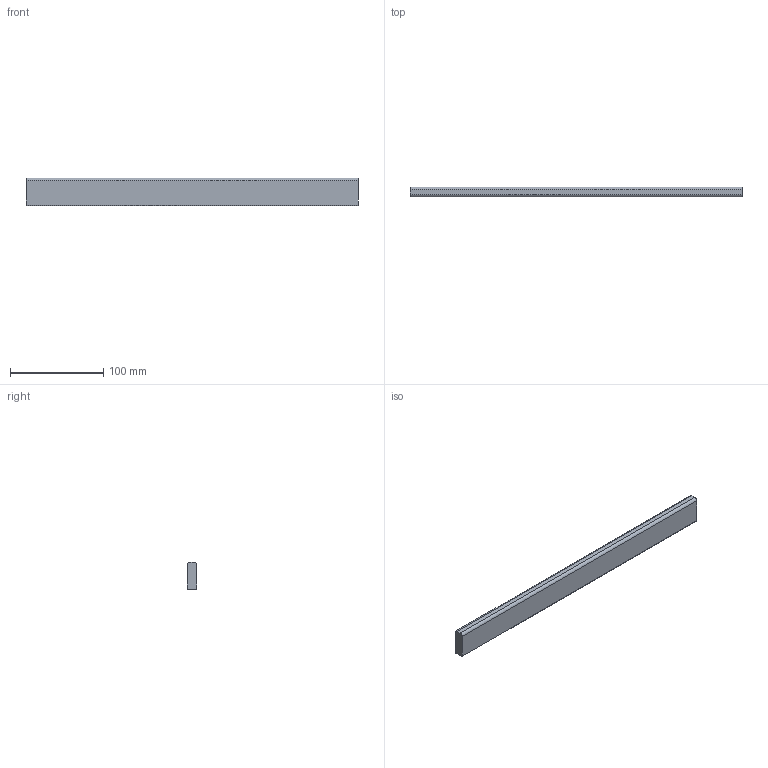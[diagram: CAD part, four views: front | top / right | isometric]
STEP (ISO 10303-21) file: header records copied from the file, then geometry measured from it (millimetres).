
FILE_DESCRIPTION (( 'STEP AP214' ), '1' );
FILE_NAME ('_Querreling_KAB-450_KS-19.step', '2010-08-26T14:58:34', ( 'grass' ), ( '' ), 'SwSTEP 2.0', 'SolidWorks 2009', '' );
FILE_SCHEMA (( 'AUTOMOTIVE_DESIGN' ));
Length unit declared in the file: millimetre
Products named in the file (1): _Querreling_KAB-450_KS-19
Bounding box: 356.5 x 10.5 x 30 mm (x, y, z)
Volume: 110767.4 mm3; surface area: 28273.8 mm2
Topology: 1 solids, 1 shells, 10 faces, 24 edges, 16 vertices
Faces by surface type: plane 6, cylinder 4
Entity records: 330 total; most frequent: DIRECTION 54, CARTESIAN_POINT 51, ORIENTED_EDGE 48, EDGE_CURVE 24, AXIS2_PLACEMENT_3D 19, VECTOR 16, LINE 16, VERTEX_POINT 16
